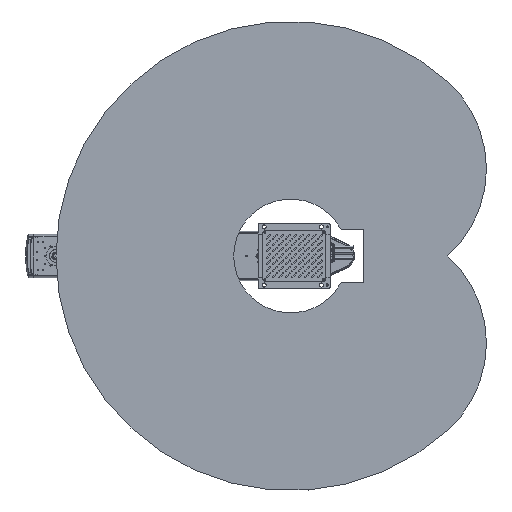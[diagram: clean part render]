
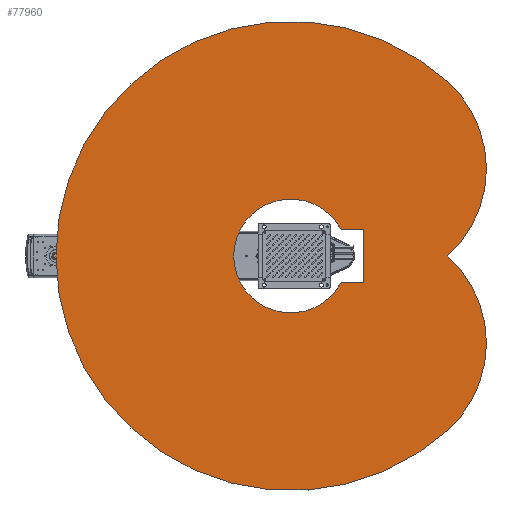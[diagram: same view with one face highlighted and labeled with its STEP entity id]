
A CAD part, front view. The second image highlights one B-rep face of the part: STEP entity #77960.
In plain terms, the highlighted planar face has unit normal (0, -1, 0) as drawn and (0, 1, 0) by its records, which use the part's own axes.
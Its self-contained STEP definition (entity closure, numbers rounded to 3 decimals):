
#3664 = DIRECTION ( 'NONE',  ( 0., 0., 1. ) ) ;
#5503 = AXIS2_PLACEMENT_3D ( 'NONE', #110201, #106756, #37804 ) ;
#6422 = AXIS2_PLACEMENT_3D ( 'NONE', #185994, #59807, #38829 ) ;
#10095 = EDGE_CURVE ( 'NONE', #30077, #201281, #192043, .T. ) ;
#10263 = LINE ( 'NONE', #205385, #121620 ) ;
#12265 = AXIS2_PLACEMENT_3D ( 'NONE', #30616, #152173, #83194 ) ;
#17943 = CARTESIAN_POINT ( 'NONE',  ( -90., 400., 250. ) ) ;
#24790 = DIRECTION ( 'NONE',  ( 0., 0., 1. ) ) ;
#25217 = CARTESIAN_POINT ( 'NONE',  ( 0., 400., 250. ) ) ;
#26912 = CARTESIAN_POINT ( 'NONE',  ( 0., 400., -800. ) ) ;
#30077 = VERTEX_POINT ( 'NONE', #110981 ) ;
#30616 = CARTESIAN_POINT ( 'NONE',  ( 0., 400., 0. ) ) ;
#35666 = CARTESIAN_POINT ( 'NONE',  ( 297.258, 400., 267.652 ) ) ;
#37804 = DIRECTION ( 'NONE',  ( 0., 0., 1. ) ) ;
#38829 = DIRECTION ( 'NONE',  ( 0., 0., 1. ) ) ;
#39859 = CARTESIAN_POINT ( 'NONE',  ( 0., 400., -194. ) ) ;
#41069 = ORIENTED_EDGE ( 'NONE', *, *, #169586, .T. ) ;
#42209 = CARTESIAN_POINT ( 'NONE',  ( 90., 400., 250. ) ) ;
#45740 = DIRECTION ( 'NONE',  ( 0., 1., 0. ) ) ;
#48708 = ORIENTED_EDGE ( 'NONE', *, *, #160250, .F. ) ;
#55130 = VERTEX_POINT ( 'NONE', #122171 ) ;
#59807 = DIRECTION ( 'NONE',  ( 0., -1., 0. ) ) ;
#75666 = VERTEX_POINT ( 'NONE', #17943 ) ;
#76127 = DIRECTION ( 'NONE',  ( 0., 1., 0. ) ) ;
#76389 = ORIENTED_EDGE ( 'NONE', *, *, #94396, .F. ) ;
#77960 = ADVANCED_FACE ( 'NONE', ( #207023, #149877 ), #117044, .T. ) ;
#79298 = EDGE_CURVE ( 'NONE', #91007, #135115, #120776, .T. ) ;
#79528 = VECTOR ( 'NONE', #168700, 1000. ) ;
#81078 = CARTESIAN_POINT ( 'NONE',  ( 90., 400., 0. ) ) ;
#83194 = DIRECTION ( 'NONE',  ( 0., 0., 1. ) ) ;
#84674 = AXIS2_PLACEMENT_3D ( 'NONE', #134821, #206076, #187411 ) ;
#84803 = DIRECTION ( 'NONE',  ( 0., 1., 0. ) ) ;
#91007 = VERTEX_POINT ( 'NONE', #94945 ) ;
#94396 = EDGE_CURVE ( 'NONE', #111940, #55130, #122021, .T. ) ;
#94945 = CARTESIAN_POINT ( 'NONE',  ( 594.516, 400., 535.304 ) ) ;
#96494 = DIRECTION ( 'NONE',  ( -1., 0., 0. ) ) ;
#99305 = CIRCLE ( 'NONE', #159025, 194. ) ;
#100665 = CARTESIAN_POINT ( 'NONE',  ( 0., 400., 0. ) ) ;
#101387 = DIRECTION ( 'NONE',  ( 0., 0., -1. ) ) ;
#104949 = VECTOR ( 'NONE', #96494, 1000. ) ;
#105629 = ORIENTED_EDGE ( 'NONE', *, *, #217004, .T. ) ;
#106756 = DIRECTION ( 'NONE',  ( 0., 1., 0. ) ) ;
#110201 = CARTESIAN_POINT ( 'NONE',  ( 0., 400., 0. ) ) ;
#110981 = CARTESIAN_POINT ( 'NONE',  ( 90., 400., 171.86 ) ) ;
#111940 = VERTEX_POINT ( 'NONE', #199400 ) ;
#113771 = LINE ( 'NONE', #81078, #79528 ) ;
#117044 = PLANE ( 'NONE',  #12265 ) ;
#117386 = EDGE_LOOP ( 'NONE', ( #224099, #164626, #41069, #137161, #48708 ) ) ;
#120776 = CIRCLE ( 'NONE', #165680, 800. ) ;
#121620 = VECTOR ( 'NONE', #101387, 1000. ) ;
#122021 = CIRCLE ( 'NONE', #6422, 400. ) ;
#122171 = CARTESIAN_POINT ( 'NONE',  ( -594.516, 400., 535.304 ) ) ;
#133611 = AXIS2_PLACEMENT_3D ( 'NONE', #35666, #84803, #160661 ) ;
#134821 = CARTESIAN_POINT ( 'NONE',  ( 0., 400., 0. ) ) ;
#134993 = LINE ( 'NONE', #25217, #104949 ) ;
#135115 = VERTEX_POINT ( 'NONE', #26912 ) ;
#137161 = ORIENTED_EDGE ( 'NONE', *, *, #184669, .T. ) ;
#137442 = CIRCLE ( 'NONE', #133611, 400. ) ;
#141692 = CARTESIAN_POINT ( 'NONE',  ( -90., 400., 171.86 ) ) ;
#149877 = FACE_OUTER_BOUND ( 'NONE', #203632, .T. ) ;
#152173 = DIRECTION ( 'NONE',  ( 0., 1., 0. ) ) ;
#154296 = ORIENTED_EDGE ( 'NONE', *, *, #185636, .T. ) ;
#159025 = AXIS2_PLACEMENT_3D ( 'NONE', #211784, #76127, #3664 ) ;
#160250 = EDGE_CURVE ( 'NONE', #201281, #217406, #99305, .T. ) ;
#160661 = DIRECTION ( 'NONE',  ( 0., 0., 1. ) ) ;
#164626 = ORIENTED_EDGE ( 'NONE', *, *, #178763, .T. ) ;
#165680 = AXIS2_PLACEMENT_3D ( 'NONE', #100665, #45740, #24790 ) ;
#168700 = DIRECTION ( 'NONE',  ( 0., 0., 1. ) ) ;
#169510 = ORIENTED_EDGE ( 'NONE', *, *, #79298, .T. ) ;
#169586 = EDGE_CURVE ( 'NONE', #203507, #75666, #134993, .T. ) ;
#178763 = EDGE_CURVE ( 'NONE', #30077, #203507, #113771, .T. ) ;
#184669 = EDGE_CURVE ( 'NONE', #75666, #217406, #10263, .T. ) ;
#185636 = EDGE_CURVE ( 'NONE', #135115, #55130, #200228, .T. ) ;
#185994 = CARTESIAN_POINT ( 'NONE',  ( -297.258, 400., 267.652 ) ) ;
#187411 = DIRECTION ( 'NONE',  ( 0., 0., 1. ) ) ;
#192043 = CIRCLE ( 'NONE', #5503, 194. ) ;
#199400 = CARTESIAN_POINT ( 'NONE',  ( 0., 400., 535.304 ) ) ;
#200228 = CIRCLE ( 'NONE', #84674, 800. ) ;
#201281 = VERTEX_POINT ( 'NONE', #39859 ) ;
#203507 = VERTEX_POINT ( 'NONE', #42209 ) ;
#203632 = EDGE_LOOP ( 'NONE', ( #76389, #105629, #169510, #154296 ) ) ;
#205385 = CARTESIAN_POINT ( 'NONE',  ( -90., 400., 0. ) ) ;
#206076 = DIRECTION ( 'NONE',  ( 0., 1., 0. ) ) ;
#207023 = FACE_BOUND ( 'NONE', #117386, .T. ) ;
#211784 = CARTESIAN_POINT ( 'NONE',  ( 0., 400., 0. ) ) ;
#217004 = EDGE_CURVE ( 'NONE', #111940, #91007, #137442, .T. ) ;
#217406 = VERTEX_POINT ( 'NONE', #141692 ) ;
#224099 = ORIENTED_EDGE ( 'NONE', *, *, #10095, .F. ) ;
